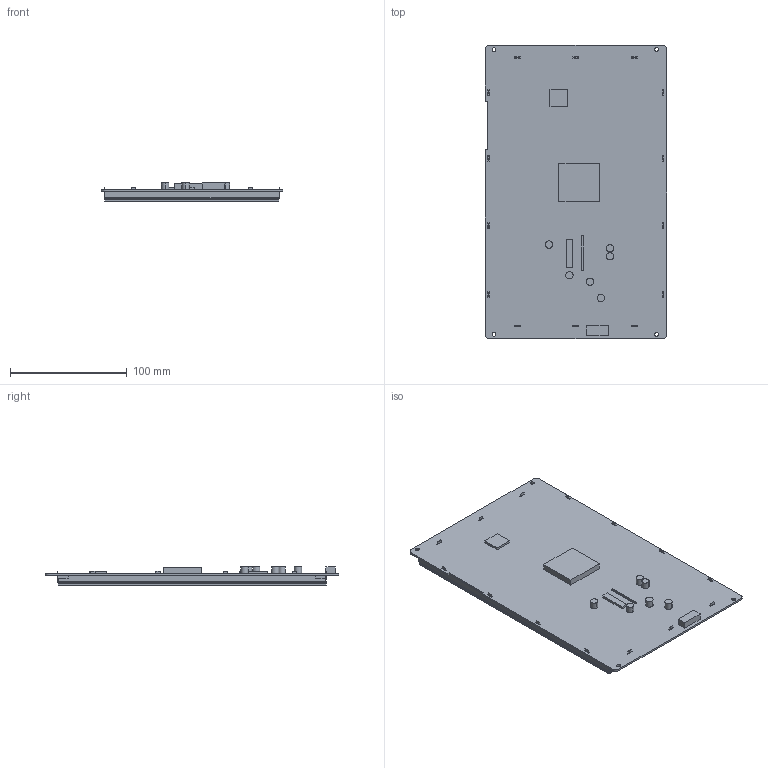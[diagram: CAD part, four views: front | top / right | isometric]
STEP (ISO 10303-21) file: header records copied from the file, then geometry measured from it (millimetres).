
FILE_DESCRIPTION((''),'2;1');
FILE_NAME('3D-DMG12800T101-01WTC','2021-10-22T',('Administrator'),(''),'PRO/ENGINEER BY PARAMETRIC TECHNOLOGY CORPORATION, 2011310','PRO/ENGINEER BY PARAMETRIC TECHNOLOGY CORPORATION, 2011310','');
FILE_SCHEMA(('CONFIG_CONTROL_DESIGN','SHAPE_APPEARANCE_LAYERS_GROUPS'));
Length unit declared in the file: millimetre
Products named in the file (1): 3D-DMG12800T101-01WTC
Bounding box: 155.32 x 251.56 x 15.7 mm (x, y, z)
Volume: 263593.4 mm3; surface area: 205114.5 mm2
Topology: 1 solids, 1 shells, 318 faces, 968 edges, 626 vertices
Faces by surface type: plane 288, cylinder 30
Entity records: 12645 total; most frequent: ORIENTED_EDGE 1936, CARTESIAN_POINT 1912, DIRECTION 1664, EDGE_CURVE 968, VECTOR 908, LINE 908, VERTEX_POINT 626, AXIS2_PLACEMENT_3D 378
